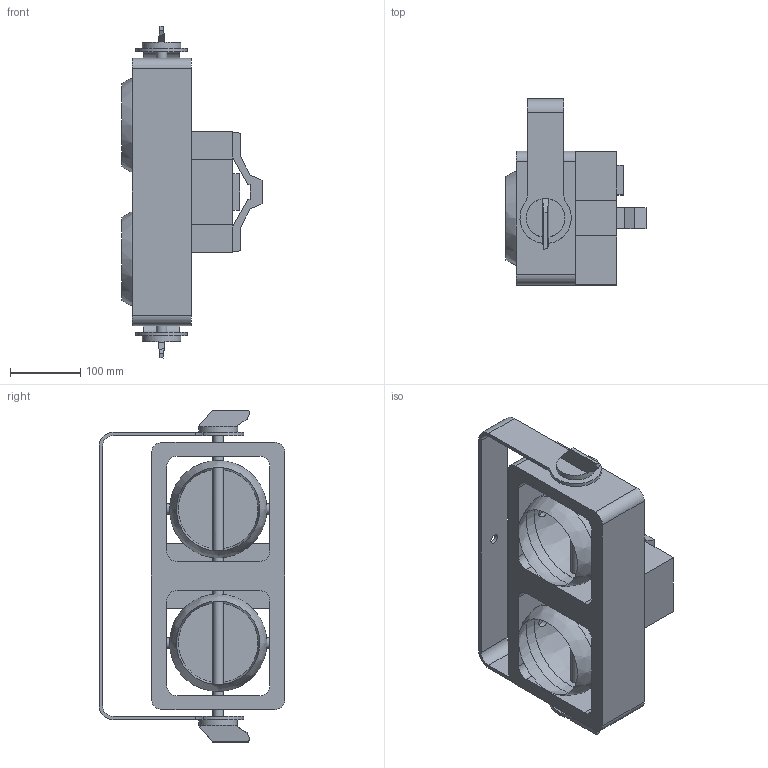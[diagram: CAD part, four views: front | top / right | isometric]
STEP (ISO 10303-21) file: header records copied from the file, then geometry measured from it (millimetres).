
FILE_DESCRIPTION(/* description */ (''),/* implementation_level */ '2;1');
FILE_NAME(/* name */ 'D:/dgooch/Documents/CADENG/PRO/Strike Array 2/90/3D/Strike Array 2_90.step',/* time_stamp */ '2020-01-20T11:12:59-05:00',/* author */ (''),/* organization */ (''),/* preprocessor_version */ 'ST-DEVELOPER v18',/* originating_system */ 'Autodesk Translation Framework v8.12.0.6',/* authorisation */ '');
FILE_SCHEMA (('AUTOMOTIVE_DESIGN { 1 0 10303 214 3 1 1 }'));
Length unit declared in the file: millimetre
Products named in the file (3): Strike Array 2; Bracket; Head
Assembly tree (2 placements, depth 2):
  Strike Array 2
    Bracket
    Head
Bounding box: 199.12 x 264.5 x 472.17 mm (x, y, z)
Volume: 6489425.6 mm3; surface area: 581132.3 mm2
Topology: 2 solids, 2 shells, 124 faces, 356 edges, 238 vertices
Faces by surface type: plane 78, cylinder 36, bspline 6, cone 4
Full cylindrical faces by diameter (mm): 13 x2, 15 x10, 55 x2
Entity records: 5119 total; most frequent: CARTESIAN_POINT 1723, ORIENTED_EDGE 704, DIRECTION 668, EDGE_CURVE 352, VERTEX_POINT 238, LINE 234, VECTOR 234, AXIS2_PLACEMENT_3D 217
